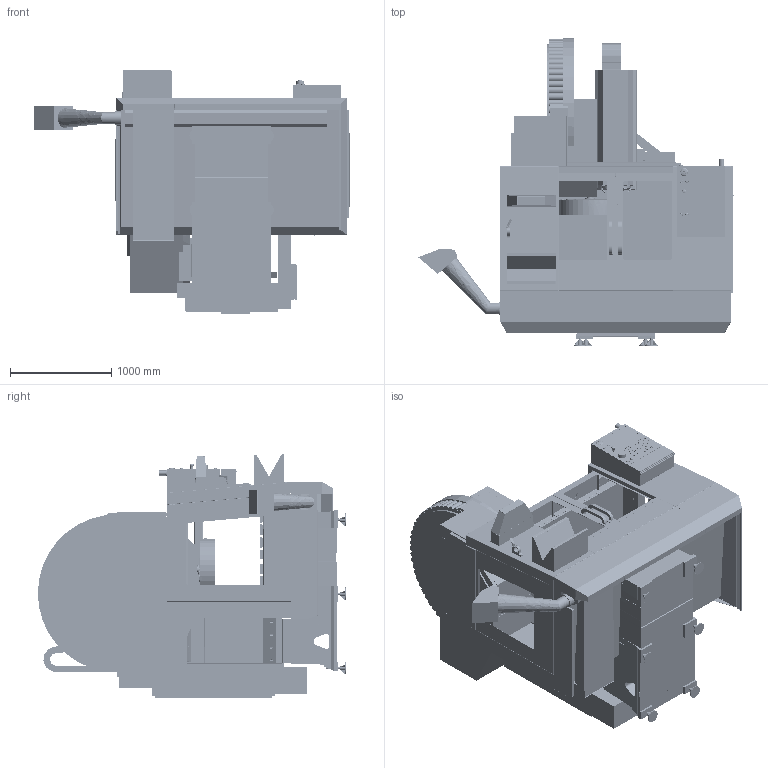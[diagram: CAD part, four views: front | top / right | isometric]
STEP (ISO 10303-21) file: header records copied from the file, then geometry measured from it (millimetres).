
FILE_DESCRIPTION (( 'STEP AP214' ), '1' );
FILE_NAME ('VF-2YT_2SSYT_STEP__11_2021.step', '2021-11-22T15:15:50', ( '' ), ( '' ), 'SwSTEP 2.0', 'SolidWorks 2021', '' );
FILE_SCHEMA (( 'AUTOMOTIVE_DESIGN' ));
Length unit declared in the file: inch
Products named in the file (39): Enclosure_VF-2YT_2SSYT_11_2021; Chip_Chute; 10000057196_Pendant_Common_32-6042 FRONT PANEL ASSY MILL SST FREE HANG_defeature; 70-SMTC_VF-2YT_2SSYT_11_2021; 37-0061_DEF_37-2090_defeature; CONV-PCKG; 50-SMTC-37-30; 10000011646_DEF_37-0059_defeature; Coolant_Ring; 10000065643_DEF_37-3443 SUB ENCL EXT SHELL VF-1_2YT NO AUG SMTC3_defeature; X-Slot Table_VF-2YT_2SSYT_11_2021; 10000011637_DEF_Default_defeature; Default_defeature^37-0060_DEF; 20-UMB-TC_VF-2YT_2SSYT_11_2021; 10000065643_DEF_defeature; Pads_DF; 10000003103_defeature; 30-SMTC_VF-2YT_2SSYT_11_2021; 37-0060_DEF_Default_defeature; Spindle Head_VF-2YT_2SSYT_11_2021; VF-2YT_2SSYT_STEP__11_2021; Castings_VF-2YT_2SSYT_11_2021; Tool Changer Arm_VF-2YT_2SSYT_11_2021; Cable-Carrier-VM2; TC-Clearance_VM-2_11_2021; 70-SMTC-37-5346; 37-3443 SUB ENCL EXT SHELL VF-1_2YT NO AUG SMTC3_defeature^10000065643_DEF; 37-0294_defeature^10000011636_DEF_1; 30-SMTC-37-3525; Pads_VM-2_11_2021; Saddle_VF-2YT_2SSYT_11_2021; 10000011636_DEF_1_37-0294_defeature; 37-0059_defeature^10000011646_DEF; 32-6042 FRONT PANEL ASSY MILL SST FREE HANG_defeature^10000057196_Pendant_Common; 50-SMTC_VF-2YT_2SSYT_11_2021; TC_ARM; 37-2090_defeature^37-0061_DEF; MA-0021_1_defeature_1; Default_defeature^10000011637_DEF
Assembly tree (44 placements, depth 4):
  VF-2YT_2SSYT_STEP__11_2021
    Castings_VF-2YT_2SSYT_11_2021
      10000011637_DEF_Default_defeature
        Default_defeature^10000011637_DEF
      10000011636_DEF_1_37-0294_defeature
        37-0294_defeature^10000011636_DEF_1
    Saddle_VF-2YT_2SSYT_11_2021
      10000011646_DEF_37-0059_defeature
        37-0059_defeature^10000011646_DEF
    Spindle Head_VF-2YT_2SSYT_11_2021
      37-0061_DEF_37-2090_defeature
        37-2090_defeature^37-0061_DEF
      Coolant_Ring
      10000003103_defeature
    X-Slot Table_VF-2YT_2SSYT_11_2021  x2
      37-0060_DEF_Default_defeature
        Default_defeature^37-0060_DEF
    Enclosure_VF-2YT_2SSYT_11_2021
      10000065643_DEF_37-3443 SUB ENCL EXT SHELL VF-1_2YT NO AUG SMTC3_defeature
        37-3443 SUB ENCL EXT SHELL VF-1_2YT NO AUG SMTC3_defeature^10000065643_DEF
      10000057196_Pendant_Common_32-6042 FRONT PANEL ASSY MILL SST FREE HANG_defeature
        32-6042 FRONT PANEL ASSY MILL SST FREE HANG_defeature^10000057196_Pendant_Common
      10000065643_DEF_defeature
      CONV-PCKG
      Cable-Carrier-VM2
    Tool Changer Arm_VF-2YT_2SSYT_11_2021
      TC_ARM
    20-UMB-TC_VF-2YT_2SSYT_11_2021
      MA-0021_1_defeature_1
    30-SMTC_VF-2YT_2SSYT_11_2021
      30-SMTC-37-3525
    50-SMTC_VF-2YT_2SSYT_11_2021
      50-SMTC-37-30
    70-SMTC_VF-2YT_2SSYT_11_2021
      70-SMTC-37-5346
    Pads_VM-2_11_2021
      Pads_DF  x6
    Chip_Chute
    TC-Clearance_VM-2_11_2021
Bounding box: 3123.02 x 3051.89 x 2405.65 mm (x, y, z)
Volume: 4328894538.3 mm3; surface area: 107129407.9 mm2
Topology: 66 solids, 94 shells, 12801 faces, 34402 edges, 22116 vertices
Faces by surface type: plane 7894, cylinder 3301, bspline 969, cone 496, sphere 77, torus 64
Entity records: 485198 total; most frequent: CARTESIAN_POINT 113240, ORIENTED_EDGE 66024, DIRECTION 58868, EDGE_CURVE 33012, LINE 22228, VECTOR 22228, VERTEX_POINT 21317, AXIS2_PLACEMENT_3D 18320
